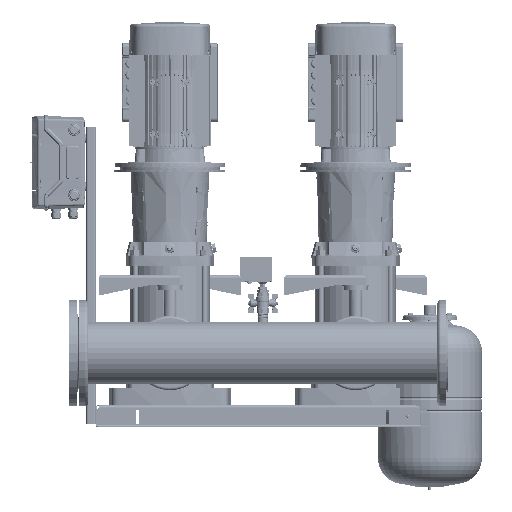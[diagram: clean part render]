
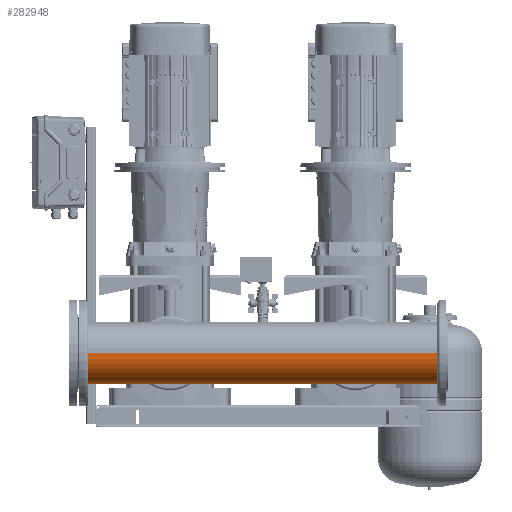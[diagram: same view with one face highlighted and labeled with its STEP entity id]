
A CAD part, front view. The second image highlights one B-rep face of the part: STEP entity #282948.
In plain terms, the highlighted cylindrical face has radius 84.15 mm (diameter 168.3 mm), a partial arc.
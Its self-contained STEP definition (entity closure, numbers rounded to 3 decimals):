
#282504=CARTESIAN_POINT('Vertex',(84.15,13.45,0.)) ;
#282511=CARTESIAN_POINT('Vertex',(84.15,-13.45,0.)) ;
#282515=CARTESIAN_POINT('Control Point',(84.15,13.45,0.)) ;
#282516=CARTESIAN_POINT('Control Point',(84.15,13.45,-2.294)) ;
#282517=CARTESIAN_POINT('Control Point',(84.072,12.961,-4.588)) ;
#282518=CARTESIAN_POINT('Control Point',(83.914,11.982,-6.738)) ;
#282519=CARTESIAN_POINT('Control Point',(83.513,9.057,-10.651)) ;
#282520=CARTESIAN_POINT('Control Point',(83.153,4.73,-12.969)) ;
#282521=CARTESIAN_POINT('Control Point',(83.036,2.218,-13.628)) ;
#282522=CARTESIAN_POINT('Control Point',(83.03,-2.819,-13.722)) ;
#282523=CARTESIAN_POINT('Control Point',(83.352,-7.382,-11.633)) ;
#282524=CARTESIAN_POINT('Control Point',(83.568,-9.344,-10.123)) ;
#282525=CARTESIAN_POINT('Control Point',(83.882,-11.727,-7.233)) ;
#282526=CARTESIAN_POINT('Control Point',(84.079,-13.004,-3.772)) ;
#282527=CARTESIAN_POINT('Control Point',(84.126,-13.301,-2.531)) ;
#282528=CARTESIAN_POINT('Control Point',(84.15,-13.45,-1.265)) ;
#282529=CARTESIAN_POINT('Control Point',(84.15,-13.45,0.)) ;
#282737=CARTESIAN_POINT('Axis2P3D Location',(0.,0.,0.)) ;
#282742=CARTESIAN_POINT('Line Origine',(84.15,0.,0.)) ;
#282746=CARTESIAN_POINT('Vertex',(84.15,205.55,0.)) ;
#282777=CARTESIAN_POINT('Vertex',(84.15,294.45,0.)) ;
#282780=CARTESIAN_POINT('Line Origine',(84.15,0.,0.)) ;
#282784=CARTESIAN_POINT('Vertex',(84.15,470.,0.)) ;
#282791=CARTESIAN_POINT('Vertex',(-84.15,470.,0.)) ;
#282794=CARTESIAN_POINT('Line Origine',(-84.15,0.,0.)) ;
#282798=CARTESIAN_POINT('Vertex',(-84.15,-470.,0.)) ;
#282805=CARTESIAN_POINT('Vertex',(84.15,-470.,0.)) ;
#282808=CARTESIAN_POINT('Line Origine',(84.15,0.,0.)) ;
#282812=CARTESIAN_POINT('Vertex',(84.15,-294.45,0.)) ;
#282843=CARTESIAN_POINT('Vertex',(84.15,-205.55,0.)) ;
#282846=CARTESIAN_POINT('Line Origine',(84.15,0.,0.)) ;
#282869=CARTESIAN_POINT('Control Point',(84.15,-205.55,0.)) ;
#282870=CARTESIAN_POINT('Control Point',(84.15,-205.55,-3.002)) ;
#282871=CARTESIAN_POINT('Control Point',(84.016,-205.803,-6.004)) ;
#282872=CARTESIAN_POINT('Control Point',(83.748,-206.31,-8.968)) ;
#282873=CARTESIAN_POINT('Control Point',(82.65,-208.419,-17.111)) ;
#282874=CARTESIAN_POINT('Control Point',(80.726,-212.326,-24.479)) ;
#282875=CARTESIAN_POINT('Control Point',(79.252,-215.497,-28.753)) ;
#282876=CARTESIAN_POINT('Control Point',(76.473,-222.162,-35.452)) ;
#282877=CARTESIAN_POINT('Control Point',(73.972,-230.372,-40.209)) ;
#282878=CARTESIAN_POINT('Control Point',(73.002,-234.259,-41.896)) ;
#282879=CARTESIAN_POINT('Control Point',(71.885,-240.535,-43.757)) ;
#282880=CARTESIAN_POINT('Control Point',(71.458,-247.08,-44.442)) ;
#282881=CARTESIAN_POINT('Control Point',(71.4,-249.36,-44.533)) ;
#282882=CARTESIAN_POINT('Control Point',(71.506,-256.235,-44.366)) ;
#282883=CARTESIAN_POINT('Control Point',(72.414,-262.951,-42.889)) ;
#282884=CARTESIAN_POINT('Control Point',(73.341,-267.228,-41.341)) ;
#282885=CARTESIAN_POINT('Control Point',(75.24,-274.026,-37.878)) ;
#282886=CARTESIAN_POINT('Control Point',(77.4,-279.873,-33.133)) ;
#282887=CARTESIAN_POINT('Control Point',(78.3,-282.109,-30.972)) ;
#282888=CARTESIAN_POINT('Control Point',(79.9,-285.835,-26.684)) ;
#282889=CARTESIAN_POINT('Control Point',(81.32,-288.853,-21.824)) ;
#282890=CARTESIAN_POINT('Control Point',(81.909,-290.063,-19.518)) ;
#282891=CARTESIAN_POINT('Control Point',(83.015,-292.28,-14.412)) ;
#282892=CARTESIAN_POINT('Control Point',(83.749,-293.691,-8.959)) ;
#282893=CARTESIAN_POINT('Control Point',(84.016,-294.197,-5.998)) ;
#282894=CARTESIAN_POINT('Control Point',(84.15,-294.45,-2.999)) ;
#282895=CARTESIAN_POINT('Control Point',(84.15,-294.45,0.)) ;
#282897=CARTESIAN_POINT('Axis2P3D Location',(0.,-470.,0.)) ;
#282902=CARTESIAN_POINT('Axis2P3D Location',(0.,470.,0.)) ;
#282908=CARTESIAN_POINT('Control Point',(84.15,294.45,0.)) ;
#282909=CARTESIAN_POINT('Control Point',(84.15,294.45,-3.002)) ;
#282910=CARTESIAN_POINT('Control Point',(84.016,294.197,-6.004)) ;
#282911=CARTESIAN_POINT('Control Point',(83.748,293.69,-8.968)) ;
#282912=CARTESIAN_POINT('Control Point',(82.65,291.581,-17.111)) ;
#282913=CARTESIAN_POINT('Control Point',(80.726,287.674,-24.479)) ;
#282914=CARTESIAN_POINT('Control Point',(79.252,284.503,-28.753)) ;
#282915=CARTESIAN_POINT('Control Point',(76.473,277.838,-35.452)) ;
#282916=CARTESIAN_POINT('Control Point',(73.972,269.628,-40.209)) ;
#282917=CARTESIAN_POINT('Control Point',(73.002,265.741,-41.896)) ;
#282918=CARTESIAN_POINT('Control Point',(71.885,259.465,-43.757)) ;
#282919=CARTESIAN_POINT('Control Point',(71.458,252.92,-44.442)) ;
#282920=CARTESIAN_POINT('Control Point',(71.4,250.64,-44.533)) ;
#282921=CARTESIAN_POINT('Control Point',(71.506,243.765,-44.366)) ;
#282922=CARTESIAN_POINT('Control Point',(72.414,237.049,-42.889)) ;
#282923=CARTESIAN_POINT('Control Point',(73.341,232.772,-41.341)) ;
#282924=CARTESIAN_POINT('Control Point',(75.24,225.974,-37.878)) ;
#282925=CARTESIAN_POINT('Control Point',(77.4,220.127,-33.133)) ;
#282926=CARTESIAN_POINT('Control Point',(78.3,217.891,-30.972)) ;
#282927=CARTESIAN_POINT('Control Point',(79.9,214.165,-26.684)) ;
#282928=CARTESIAN_POINT('Control Point',(81.32,211.147,-21.824)) ;
#282929=CARTESIAN_POINT('Control Point',(81.909,209.937,-19.518)) ;
#282930=CARTESIAN_POINT('Control Point',(83.015,207.72,-14.412)) ;
#282931=CARTESIAN_POINT('Control Point',(83.749,206.309,-8.959)) ;
#282932=CARTESIAN_POINT('Control Point',(84.016,205.803,-5.998)) ;
#282933=CARTESIAN_POINT('Control Point',(84.15,205.55,-2.999)) ;
#282934=CARTESIAN_POINT('Control Point',(84.15,205.55,0.)) ;
#282744=VECTOR('Line Direction',#282743,1.) ;
#282782=VECTOR('Line Direction',#282781,1.) ;
#282796=VECTOR('Line Direction',#282795,1.) ;
#282810=VECTOR('Line Direction',#282809,1.) ;
#282848=VECTOR('Line Direction',#282847,1.) ;
#282738=DIRECTION('Axis2P3D Direction',(0.,1.,-0.)) ;
#282739=DIRECTION('Axis2P3D XDirection',(-1.,0.,0.)) ;
#282743=DIRECTION('Vector Direction',(0.,1.,0.)) ;
#282781=DIRECTION('Vector Direction',(0.,1.,0.)) ;
#282795=DIRECTION('Vector Direction',(0.,1.,0.)) ;
#282809=DIRECTION('Vector Direction',(0.,1.,0.)) ;
#282847=DIRECTION('Vector Direction',(0.,1.,0.)) ;
#282898=DIRECTION('Axis2P3D Direction',(0.,1.,-0.)) ;
#282903=DIRECTION('Axis2P3D Direction',(0.,1.,-0.)) ;
#282740=AXIS2_PLACEMENT_3D('Cylinder Axis2P3D',#282737,#282738,#282739) ;
#282899=AXIS2_PLACEMENT_3D('Circle Axis2P3D',#282897,#282898,$) ;
#282904=AXIS2_PLACEMENT_3D('Circle Axis2P3D',#282902,#282903,$) ;
#282745=LINE('Line',#282742,#282744) ;
#282783=LINE('Line',#282780,#282782) ;
#282797=LINE('Line',#282794,#282796) ;
#282811=LINE('Line',#282808,#282810) ;
#282849=LINE('Line',#282846,#282848) ;
#282900=CIRCLE('generated circle',#282899,84.15) ;
#282905=CIRCLE('generated circle',#282904,84.15) ;
#282741=CYLINDRICAL_SURFACE('generated cylinder',#282740,84.15) ;
#282530=EDGE_CURVE('',#282505,#282512,#282514,.T.) ;
#282748=EDGE_CURVE('',#282505,#282747,#282745,.T.) ;
#282786=EDGE_CURVE('',#282778,#282785,#282783,.T.) ;
#282800=EDGE_CURVE('',#282799,#282792,#282797,.T.) ;
#282814=EDGE_CURVE('',#282806,#282813,#282811,.T.) ;
#282850=EDGE_CURVE('',#282844,#282512,#282849,.T.) ;
#282896=EDGE_CURVE('',#282844,#282813,#282868,.T.) ;
#282901=EDGE_CURVE('',#282806,#282799,#282900,.T.) ;
#282906=EDGE_CURVE('',#282785,#282792,#282905,.T.) ;
#282935=EDGE_CURVE('',#282778,#282747,#282907,.T.) ;
#282937=ORIENTED_EDGE('',*,*,#282850,.F.) ;
#282938=ORIENTED_EDGE('',*,*,#282896,.T.) ;
#282939=ORIENTED_EDGE('',*,*,#282814,.F.) ;
#282940=ORIENTED_EDGE('',*,*,#282901,.T.) ;
#282941=ORIENTED_EDGE('',*,*,#282800,.T.) ;
#282942=ORIENTED_EDGE('',*,*,#282906,.F.) ;
#282943=ORIENTED_EDGE('',*,*,#282786,.F.) ;
#282944=ORIENTED_EDGE('',*,*,#282935,.T.) ;
#282945=ORIENTED_EDGE('',*,*,#282748,.F.) ;
#282946=ORIENTED_EDGE('',*,*,#282530,.T.) ;
#282936=EDGE_LOOP('',(#282937,#282938,#282939,#282940,#282941,#282942,#282943,#282944,#282945,#282946)) ;
#282505=VERTEX_POINT('',#282504) ;
#282512=VERTEX_POINT('',#282511) ;
#282747=VERTEX_POINT('',#282746) ;
#282778=VERTEX_POINT('',#282777) ;
#282785=VERTEX_POINT('',#282784) ;
#282792=VERTEX_POINT('',#282791) ;
#282799=VERTEX_POINT('',#282798) ;
#282806=VERTEX_POINT('',#282805) ;
#282813=VERTEX_POINT('',#282812) ;
#282844=VERTEX_POINT('',#282843) ;
#282948=ADVANCED_FACE('PartBody',(#282947),#282741,.T.) ;
#282514=B_SPLINE_CURVE_WITH_KNOTS('',5,(#282515,#282516,#282517,#282518,#282519,#282520,#282521,#282522,#282523,#282524,#282525,#282526,#282527,#282528,#282529),.UNSPECIFIED.,.F.,.U.,(6,3,3,3,6),(0.,16.222,33.911,50.906,59.853),.UNSPECIFIED.) ;
#282868=B_SPLINE_CURVE_WITH_KNOTS('',5,(#282869,#282870,#282871,#282872,#282873,#282874,#282875,#282876,#282877,#282878,#282879,#282880,#282881,#282882,#282883,#282884,#282885,#282886,#282887,#282888,#282889,#282890,#282891,#282892,#282893,#282894,#282895),.UNSPECIFIED.,.F.,.U.,(6,3,3,3,3,3,3,3,6),(0.,21.226,59.746,90.173,106.258,138.671,161.447,180.249,201.454),.UNSPECIFIED.) ;
#282907=B_SPLINE_CURVE_WITH_KNOTS('',5,(#282908,#282909,#282910,#282911,#282912,#282913,#282914,#282915,#282916,#282917,#282918,#282919,#282920,#282921,#282922,#282923,#282924,#282925,#282926,#282927,#282928,#282929,#282930,#282931,#282932,#282933,#282934),.UNSPECIFIED.,.F.,.U.,(6,3,3,3,3,3,3,3,6),(0.,21.226,59.746,90.173,106.258,138.671,161.447,180.249,201.454),.UNSPECIFIED.) ;
#282947=FACE_OUTER_BOUND('',#282936,.T.) ;
